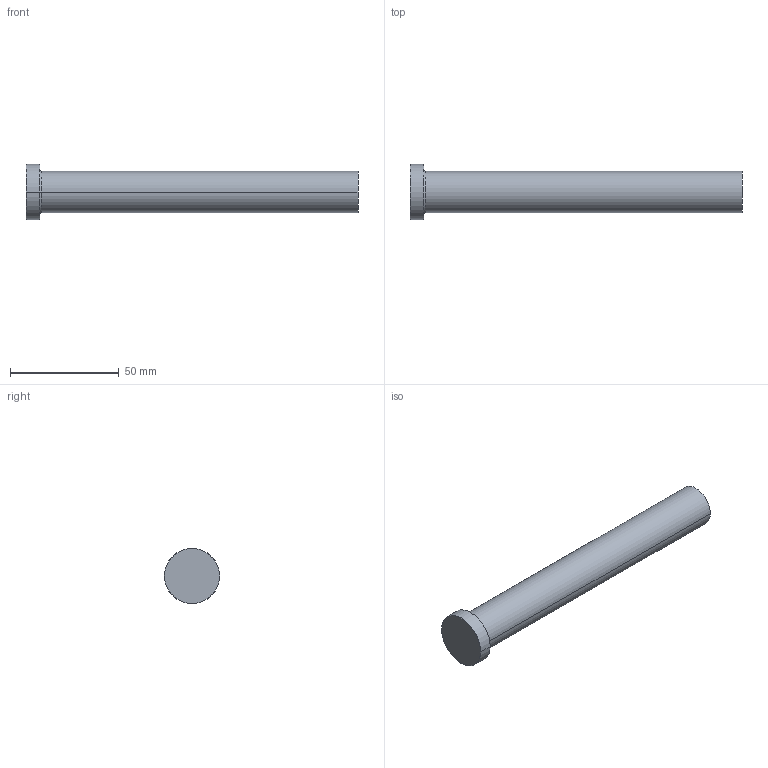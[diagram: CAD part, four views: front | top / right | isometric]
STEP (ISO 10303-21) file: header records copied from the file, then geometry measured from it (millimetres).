
FILE_DESCRIPTION (( 'STEP AP214' ), '1' );
FILE_NAME ('P41-6.STEP', '2020-03-12T12:17:01', ( '' ), ( '' ), 'SwSTEP 2.0', 'SolidWorks 2018', '' );
FILE_SCHEMA (( 'AUTOMOTIVE_DESIGN' ));
Length unit declared in the file: inch
Products named in the file (1): P41-6
Bounding box: 152.4 x 25.4 x 25.4 mm (x, y, z)
Volume: 44796.5 mm3; surface area: 10226.2 mm2
Topology: 1 solids, 1 shells, 13 faces, 24 edges, 14 vertices
Faces by surface type: cone 4, cylinder 4, plane 3, torus 2
Entity records: 366 total; most frequent: DIRECTION 68, CARTESIAN_POINT 52, ORIENTED_EDGE 48, AXIS2_PLACEMENT_3D 30, EDGE_CURVE 24, CIRCLE 16, VERTEX_POINT 14, EDGE_LOOP 14
